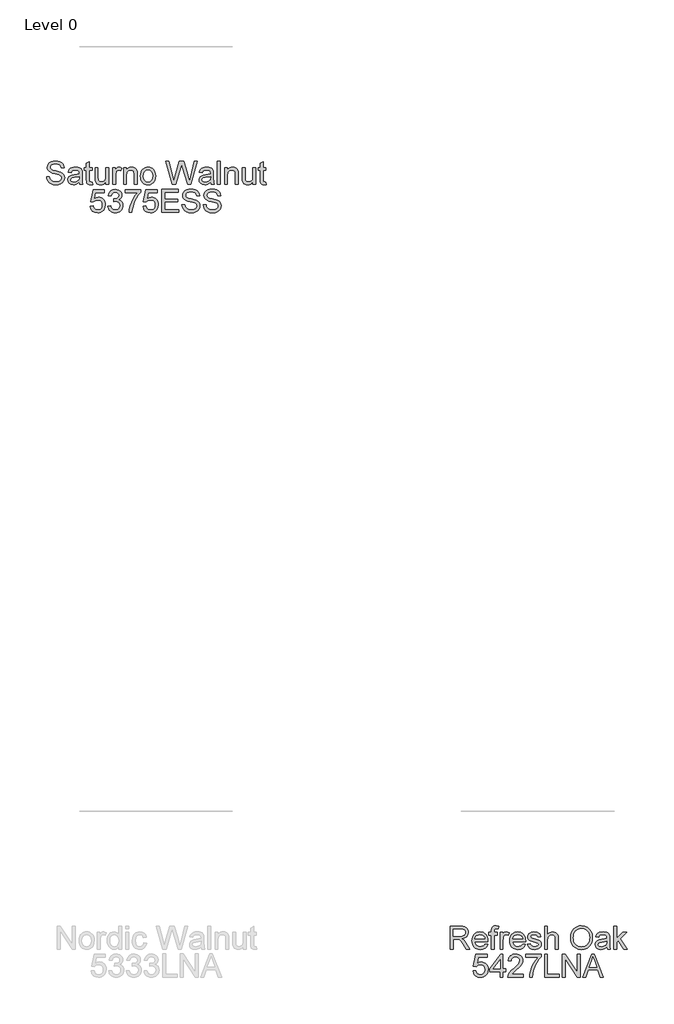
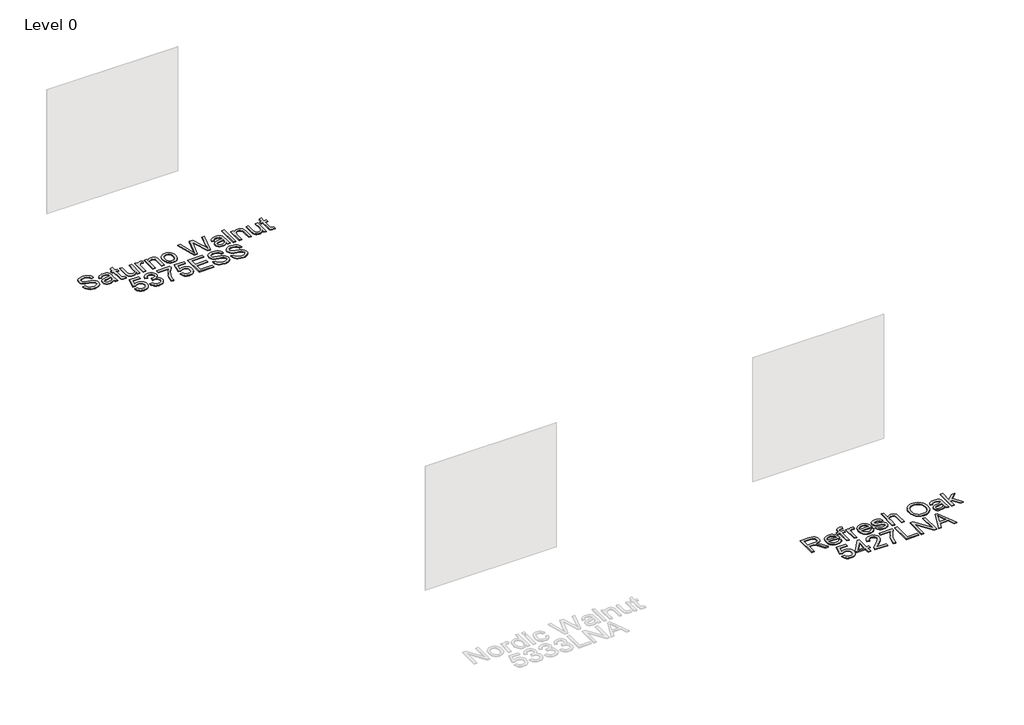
# One storey, part 39 of 43: 2 proxies.
"""IFC4 building model written with IfcOpenShell, lengths in millimetres."""

from ifc_helpers import new_model, si_unit, origin, origin_with_axes, place, context, project, spatial, polyline, outline, extrude, element, save

model = new_model("IFC4")

# Units and contexts
model_context = context("Model", 3, world=origin())
ifc_project = project(units=[si_unit("LENGTHUNIT", "METRE", prefix="MILLI")], contexts=[model_context])

# Site, building, storey
site = spatial("IfcSite", under=ifc_project)
building = spatial("IfcBuilding", under=site)
storey = spatial("IfcBuildingStorey", under=building, Name="Level 0", Elevation=0.0)

# Proxies
placement = place(None, origin())
element("IfcBuildingElementProxy", 1, Name="300mm Arial", ObjectType="300mm Arial", at=placement, inside=storey, context=model_context, shape_type="SweptSolid", body=[
    extrude(outline(polyline([(36405.0817859, -22017.4454346), (36405.0817859, -21716.0765041), (36534.9441302, -21716.0765041), (36569.8469345, -21718.1090521), (36595.2399892, -21724.2066962), (36613.7996359, -21735.4638852), (36628.202216, -21752.9750682), (36637.4452511, -21774.689303), (36640.5262628, -21798.5556474), (36635.4219001, -21828.2437244), (36620.1088121, -21852.8550299), (36608.5090329, -21862.8844128), (36594.1271462, -21870.8996418), (36557.0170499, -21880.8876379), (36578.427782, -21897.0008693), (36608.9619876, -21935.7756316), (36659.2146682, -22017.4454346), (36615.4367107, -22017.4454346), (36576.2204901, -21954.9790718), (36547.8935764, -21913.6291355), (36527.9911605, -21894.0946016), (36510.0753073, -21886.9209027), (36488.2231168, -21885.5965275), (36442.7529022, -21885.5965275), (36442.7529022, -22017.4454346), (36405.0817859, -22017.4454346)]), holes=[polyline([(36442.7529022, -21847.9254112), (36527.0714555, -21847.9254112), (36551.2872878, -21846.5918389), (36570.0768607, -21842.5911222), (36584.2219234, -21835.6565466), (36594.5042252, -21825.5213977), (36600.7674162, -21813.2617302), (36602.8551465, -21799.953599), (36598.8728239, -21781.5778933), (36586.9258561, -21766.770643), (36566.3704496, -21757.0033761), (36536.562811, -21753.7476204), (36442.7529022, -21753.7476204), (36442.7529022, -21847.9254112)])]), origin_with_axes(), (0.0, 0.0, 1.0), 10.0),
    extrude(outline(polyline([(36856.6937232, -21951.520981), (36893.6290755, -21956.2298706), (36880.3209443, -21984.0601435), (36859.0849561, -22004.8638703), (36830.3993576, -22017.8317106), (36794.7423952, -22022.1543241), (36771.3680929, -22020.2896222), (36750.5413735, -22014.6955166), (36732.2622368, -22005.3720073), (36716.530683, -21992.3190943), (36703.8801409, -21975.900061), (36694.8440394, -21956.4781909), (36689.4223785, -21934.053484), (36687.6151582, -21908.6259404), (36689.4407726, -21882.3361733), (36694.9176158, -21859.1642061), (36704.0456878, -21839.1100389), (36716.8249886, -21822.1736715), (36732.5151557, -21808.7183875), (36750.3758266, -21799.1074704), (36770.4070012, -21793.3409201), (36792.6086796, -21791.4187367), (36814.0952874, -21793.3363216), (36833.5263545, -21799.0890763), (36850.901881, -21808.6770008), (36866.2218668, -21822.1000951), (36878.7275554, -21838.9996743), (36887.6601901, -21859.0170533), (36893.0197709, -21882.1522323), (36894.8062979, -21908.4052112), (36894.5855687, -21918.5587542), (36725.2862745, -21918.5587542), (36731.8069829, -21946.7569092), (36746.954524, -21967.4870596), (36768.8159116, -21980.2341707), (36795.4781592, -21984.4832078), (36815.5277279, -21982.5150391), (36832.4135115, -21976.6105331), (36846.1355099, -21966.4018077), (36856.6937232, -21951.520981)]), holes=[polyline([(36725.2862745, -21880.8876379), (36857.1351816, -21880.8876379), (36852.0400159, -21860.985222), (36842.0520198, -21846.7481888), (36820.0894647, -21833.504437), (36792.4615268, -21829.089853), (36767.0684721, -21832.6123231), (36746.0716072, -21843.1797334), (36731.4758891, -21859.6516498), (36725.2862745, -21880.8876379)])]), origin_with_axes(), (0.0, 0.0, 1.0), 10.0),
    extrude(outline(polyline([(36941.8951933, -22017.4454346), (36941.8951933, -21833.7987426), (36908.9329665, -21833.7987426), (36908.9329665, -21796.1276263), (36941.8951933, -21796.1276263), (36941.8951933, -21773.8339773), (36945.8683188, -21742.416855), (36953.4466879, -21729.890473), (36965.1453354, -21719.9760533), (36981.5160841, -21713.5197242), (37003.1107573, -21711.3676146), (37037.4709356, -21715.4878929), (37031.9527057, -21750.8045644), (37010.247668, -21749.0387309), (36995.9278613, -21750.6022293), (36986.5192793, -21755.2927248), (36981.304552, -21764.2506514), (36979.5663096, -21778.6164433), (36979.5663096, -21796.1276263), (37021.9463154, -21796.1276263), (37021.9463154, -21833.7987426), (36979.5663096, -21833.7987426), (36979.5663096, -22017.4454346), (36941.8951933, -22017.4454346)])), origin_with_axes(), (0.0, 0.0, 1.0), 10.0),
    extrude(outline(polyline([(37054.9085422, -22017.4454346), (37054.9085422, -21796.1276263), (37087.8707689, -21796.1276263), (37087.8707689, -21828.8691238), (37100.047663, -21809.8864129), (37111.2680638, -21798.7028002), (37122.5252529, -21793.2397526), (37134.8125115, -21791.4187367), (37153.5744933, -21794.3250045), (37172.6307806, -21803.0438078), (37160.0492164, -21836.8153749), (37146.8054646, -21831.0212335), (37133.5617127, -21829.089853), (37122.3137207, -21830.9476571), (37112.2613452, -21836.5210693), (37104.1403502, -21845.3870254), (37098.6864996, -21857.1224611), (37094.1063688, -21878.1653112), (37092.5796585, -21901.1211477), (37092.5796585, -22017.4454346), (37054.9085422, -22017.4454346)])), origin_with_axes(), (0.0, 0.0, 1.0), 10.0),
    extrude(outline(polyline([(37351.1271247, -21951.520981), (37388.062477, -21956.2298706), (37374.7543458, -21984.0601435), (37353.5183577, -22004.8638703), (37324.8327591, -22017.8317106), (37289.1757967, -22022.1543241), (37265.8014944, -22020.2896222), (37244.974775, -22014.6955166), (37226.6956383, -22005.3720073), (37210.9640845, -21992.3190943), (37198.3135424, -21975.900061), (37189.2774409, -21956.4781909), (37183.85578, -21934.053484), (37182.0485597, -21908.6259404), (37183.8741741, -21882.3361733), (37189.3510173, -21859.1642061), (37198.4790893, -21839.1100389), (37211.2583901, -21822.1736715), (37226.9485572, -21808.7183875), (37244.8092281, -21799.1074704), (37264.8404027, -21793.3409201), (37287.0420811, -21791.4187367), (37308.5286889, -21793.3363216), (37327.959756, -21799.0890763), (37345.3352825, -21808.6770008), (37360.6552684, -21822.1000951), (37373.1609569, -21838.9996743), (37382.0935916, -21859.0170533), (37387.4531725, -21882.1522323), (37389.2396994, -21908.4052112), (37389.0189702, -21918.5587542), (37219.719676, -21918.5587542), (37226.2403844, -21946.7569092), (37241.3879255, -21967.4870596), (37263.2493131, -21980.2341707), (37289.9115607, -21984.4832078), (37309.9611294, -21982.5150391), (37326.846913, -21976.6105331), (37340.5689114, -21966.4018077), (37351.1271247, -21951.520981)]), holes=[polyline([(37219.719676, -21880.8876379), (37351.5685831, -21880.8876379), (37346.4734175, -21860.985222), (37336.4854213, -21846.7481888), (37314.5228662, -21833.504437), (37286.8949283, -21829.089853), (37261.5018736, -21832.6123231), (37240.5050087, -21843.1797334), (37225.9092906, -21859.6516498), (37219.719676, -21880.8876379)])]), origin_with_axes(), (0.0, 0.0, 1.0), 10.0),
    extrude(outline(polyline([(37412.7841471, -21951.520981), (37450.4552634, -21946.8120915), (37456.3965576, -21962.9253229), (37467.89287, -21974.7711231), (37485.0177768, -21982.0551866), (37507.8448546, -21984.4832078), (37530.3960209, -21982.2575217), (37546.2517349, -21975.5804635), (37555.6327258, -21965.905167), (37558.7597228, -21954.6847662), (37555.6143317, -21945.0830461), (37546.1781585, -21937.7621944), (37507.4033962, -21927.0200401), (37450.6759926, -21908.5891522), (37436.3193977, -21899.3277229), (37425.9175343, -21887.0680555), (37419.599161, -21872.591899), (37417.4930366, -21856.6810027), (37419.1852938, -21842.0852845), (37424.2620653, -21828.6116064), (37432.2634987, -21816.7933973), (37442.7297415, -21807.1640861), (37466.6788594, -21796.0172617), (37499.0892632, -21791.4187367), (37523.6085981, -21793.2673437), (37544.9273598, -21798.8131648), (37562.0706607, -21807.513574), (37574.0636138, -21818.8259454), (37582.0098649, -21833.5872104), (37587.01306, -21852.6343007), (37549.3419437, -21857.3431903), (37544.5870689, -21845.488193), (37535.1784869, -21836.5578575), (37521.0242271, -21830.9568541), (37502.0323191, -21829.089853), (37480.4008578, -21830.8740807), (37465.9798836, -21836.2267637), (37457.8680856, -21843.9522856), (37455.1641529, -21852.8550299), (37459.6523133, -21863.8179134), (37473.7054055, -21872.1320465), (37506.1525975, -21880.151874), (37561.4452613, -21897.8837861), (37576.0501765, -21906.3634661), (37587.1234246, -21917.9701431), (37594.1039855, -21932.7406052), (37596.4308391, -21950.7116406), (37593.6993153, -21969.2896814), (37585.5047438, -21986.7640762), (37572.1598244, -22001.7644645), (37553.9772568, -22012.920486), (37532.0147017, -22019.8458646), (37507.3298198, -22022.1543241), (37469.3460038, -22017.7029519), (37441.6260955, -22004.3488355), (37423.1216311, -21982.2391276), (37412.7841471, -21951.520981)])), origin_with_axes(), (0.0, 0.0, 1.0), 10.0),
    extrude(outline(polyline([(37638.8108449, -22017.4454346), (37638.8108449, -21716.0765041), (37676.4819612, -21716.0765041), (37676.4819612, -21826.882561), (37690.3189228, -21811.3671379), (37705.8573385, -21800.2846928), (37723.0972085, -21793.6352257), (37742.0385328, -21791.4187367), (37764.7920342, -21793.8375608), (37784.3449622, -21801.0940332), (37799.7408237, -21812.6179367), (37810.0231255, -21827.8390542), (37815.8172669, -21848.7531457), (37817.7486474, -21877.3559708), (37817.7486474, -22017.4454346), (37780.0775311, -22017.4454346), (37780.0775311, -21881.2555199), (37777.0792928, -21857.674284), (37768.084578, -21841.5242645), (37753.5900274, -21832.1984559), (37734.0922817, -21829.089853), (37718.1721883, -21831.1867804), (37703.2269823, -21837.4775625), (37690.8477531, -21847.3551941), (37682.6255905, -21860.2126698), (37678.0178686, -21877.3007885), (37676.4819612, -21899.8703489), (37676.4819612, -22017.4454346), (37638.8108449, -22017.4454346)])), origin_with_axes(), (0.0, 0.0, 1.0), 10.0),
    extrude(outline(polyline([(37977.8508917, -21870.7340949), (37980.3616863, -21835.3852337), (37987.8940701, -21804.0922714), (38000.4480432, -21776.8552082), (38018.0236055, -21753.674044), (38039.5676949, -21735.1649811), (38064.027249, -21721.9442219), (38091.402268, -21714.0117664), (38121.6927518, -21711.3676146), (38161.2216722, -21716.3340215), (38196.6671024, -21731.2332423), (38226.097662, -21755.0168133), (38247.5819705, -21786.6362708), (38260.7153578, -21824.5649045), (38265.0931535, -21867.2760041), (38260.4854315, -21910.5573209), (38246.6622656, -21949.0193834), (38224.3870107, -21980.6940232), (38194.4230222, -22003.6130715), (38159.2810946, -22017.519011), (38121.4720226, -22022.1543241), (38081.3360969, -22017.0315673), (38045.6883316, -22001.663297), (38016.3313484, -21977.4382676), (37995.067769, -21945.7452337), (37982.155111, -21909.2789309), (37977.8508917, -21870.7340949)]), holes=[polyline([(38015.522008, -21871.1019769), (38017.4051039, -21896.0765658), (38023.0543918, -21918.2460546), (38032.4698716, -21937.6104431), (38045.6515434, -21954.1697314), (38061.6751035, -21967.4318773), (38079.6162486, -21976.9048387), (38099.4749785, -21982.5886155), (38121.2512934, -21984.4832078), (38143.4000888, -21982.5702214), (38163.4933435, -21976.8312623), (38181.5310576, -21967.2663304), (38197.513231, -21953.8754258), (38210.5983337, -21936.9666496), (38219.9448357, -21916.848103), (38225.5527368, -21893.519786), (38227.4220372, -21866.9816985), (38224.2214638, -21833.6331957), (38214.6197438, -21804.8096413), (38198.8651973, -21781.2376025), (38177.2061449, -21763.6436461), (38151.0773262, -21752.6899597), (38121.913481, -21749.0387309), (38100.8936235, -21750.7976667), (38081.3912792, -21756.074474), (38063.4064482, -21764.869153), (38046.9391304, -21777.1817035), (38033.1941393, -21793.6053353), (38023.3762886, -21814.7332582), (38017.4855781, -21840.565472), (38015.522008, -21871.1019769)])]), origin_with_axes(), (0.0, 0.0, 1.0), 10.0),
    extrude(outline(polyline([(38453.448735, -21989.1920973), (38435.4501084, -22004.624747), (38416.9180529, -22014.7231078), (38397.4295042, -22020.29652), (38376.561398, -22022.1543241), (38345.0798963, -22017.6845578), (38321.8573454, -22004.2752591), (38307.5375387, -21983.9129907), (38302.7642698, -21958.5843153), (38304.5668916, -21942.9677246), (38309.9747569, -21928.7858737), (38318.3164812, -21916.6457679), (38328.9206797, -21907.1544124), (38355.2978187, -21894.7935774), (38387.8921635, -21889.1281946), (38426.4094084, -21883.1685063), (38453.2280058, -21876.1787484), (38453.448735, -21867.7910389), (38450.855167, -21850.9788317), (38443.0744628, -21839.9791601), (38425.6736444, -21831.8121798), (38401.4302209, -21829.089853), (38378.9894192, -21830.9016718), (38363.3176462, -21836.3371283), (38352.6306743, -21846.3895038), (38345.1442757, -21862.0520798), (38307.4731594, -21857.3431903), (38314.0122618, -21836.7417985), (38323.7703317, -21820.5549907), (38337.6578771, -21808.1757616), (38356.5854057, -21798.9971058), (38379.7343803, -21793.313329), (38406.2862633, -21791.4187367), (38431.7528944, -21793.0925998), (38451.9404189, -21798.114189), (38467.1615364, -21805.664967), (38477.7289467, -21814.9263962), (38484.7370987, -21826.3767233), (38489.2804414, -21840.4941949), (38491.1198513, -21873.4564216), (38491.1198513, -21920.3245878), (38493.0328377, -21985.7707948), (38500.5376304, -22017.4454346), (38462.8665141, -22017.4454346), (38453.448735, -21989.1920973)]), holes=[polyline([(38453.448735, -21913.8498647), (38392.6746294, -21925.4013594), (38360.2642257, -21931.5082005), (38345.5857341, -21941.4410143), (38340.4353861, -21955.935565), (38343.2404863, -21967.1375717), (38351.655787, -21976.3162275), (38365.497347, -21982.4414627), (38384.5812255, -21984.4832078), (38404.8147353, -21982.2299306), (38422.6938002, -21975.4700989), (38437.1883509, -21965.5096939), (38447.2683175, -21953.6546966), (38451.7380838, -21941.4410143), (38453.2280058, -21924.5184426), (38453.448735, -21913.8498647)])]), origin_with_axes(), (0.0, 0.0, 1.0), 10.0),
    extrude(outline(polyline([(38542.9176363, -22017.4454346), (38542.9176363, -21716.0765041), (38580.5887526, -21716.0765041), (38580.5887526, -21878.0181584), (38665.0544587, -21796.1276263), (38717.1465492, -21796.1276263), (38631.6507735, -21879.048228), (38721.8554387, -22017.4454346), (38677.8567521, -22017.4454346), (38604.6482351, -21905.241426), (38580.5887526, -21928.5651445), (38580.5887526, -22017.4454346), (38542.9176363, -22017.4454346)])), origin_with_axes(), (0.0, 0.0, 1.0), 10.0),
    extrude(outline(polyline([(36701.7418268, -22303.3187659), (36739.4129431, -22298.6098764), (36746.3291246, -22321.2254221), (36758.3956541, -22337.4214269), (36775.5573491, -22347.1611027), (36797.7590275, -22350.4076613), (36824.761566, -22345.8919098), (36844.9950757, -22332.3446554), (36857.6318223, -22311.3293964), (36861.8440711, -22284.4096314), (36857.8985367, -22259.0625619), (36846.0619335, -22239.6751808), (36826.242291, -22227.369528), (36798.3476387, -22223.2676438), (36780.0731006, -22224.9047187), (36765.2750474, -22229.8159433), (36744.1218326, -22246.8120915), (36706.4507163, -22242.1032019), (36739.4129431, -22086.7098472), (36885.3885188, -22086.7098472), (36885.3885188, -22124.3809635), (36769.8735723, -22124.3809635), (36753.7603409, -22207.3751416), (36780.6709089, -22191.041181), (36808.8690638, -22185.5965275), (36827.214879, -22187.2841861), (36844.0661737, -22192.3471621), (36859.4229477, -22200.7854554), (36873.2852012, -22212.5990659), (36884.7608201, -22227.0660254), (36892.9576908, -22243.4643653), (36897.8758133, -22261.7940857), (36899.5151874, -22282.0551866), (36893.6106814, -22319.7263029), (36886.2300489, -22336.520116), (36875.8971633, -22351.9527657), (36860.2437844, -22367.7578959), (36841.9784434, -22379.0472746), (36821.1011401, -22385.8209019), (36797.6118747, -22388.0787776), (36760.6121431, -22382.2754392), (36744.9334723, -22375.0212661), (36731.1355982, -22364.8654237), (36719.6553807, -22352.3137499), (36710.9296796, -22337.8720823), (36701.7418268, -22303.3187659)])), origin_with_axes(), (0.0, 0.0, 1.0), 10.0),
    extrude(outline(polyline([(37054.9085422, -22383.3698881), (37054.9085422, -22312.736545), (36918.3507456, -22312.736545), (36918.3507456, -22275.0654287), (37064.3263213, -22086.7098472), (37092.5796585, -22086.7098472), (37092.5796585, -22275.0654287), (37130.2507748, -22275.0654287), (37130.2507748, -22312.736545), (37092.5796585, -22312.736545), (37092.5796585, -22383.3698881), (37054.9085422, -22383.3698881)]), holes=[polyline([(37054.9085422, -22275.0654287), (37054.9085422, -22158.6675654), (36964.703877, -22275.0654287), (37054.9085422, -22275.0654287)])]), origin_with_axes(), (0.0, 0.0, 1.0), 10.0),
    extrude(outline(polyline([(37356.2774726, -22345.6987718), (37356.2774726, -22383.3698881), (37158.504112, -22383.3698881), (37162.550814, -22357.3974192), (37171.8398343, -22337.0995301), (37185.4330741, -22317.4086464), (37205.0963667, -22296.7980576), (37232.5955458, -22273.7410535), (37273.2465063, -22237.6334357), (37297.6370826, -22210.9803851), (37309.8323707, -22189.3489238), (37313.8974668, -22168.3060737), (37310.062297, -22149.4429244), (37298.5567876, -22133.7619544), (37280.8708607, -22123.194544), (37258.4944383, -22119.6720739), (37234.9959759, -22123.1117706), (37216.7398319, -22133.4308606), (37204.958411, -22149.8200034), (37200.8841179, -22171.4698589), (37163.2130016, -22166.7609693), (37172.3456721, -22130.3222577), (37180.8920307, -22115.7863204), (37192.0917382, -22103.7059954), (37205.6872772, -22094.2100414), (37221.4211302, -22087.4272171), (37259.3037787, -22082.0009576), (37279.4936024, -22083.5092738), (37297.4623386, -22088.0342224), (37313.2099873, -22095.5758033), (37326.7365484, -22106.1340165), (37337.6005636, -22118.9271129), (37345.3605744, -22133.1733432), (37350.0165809, -22148.8727073), (37351.5685831, -22166.0252053), (37349.89472, -22184.0422261), (37344.8731308, -22201.7465471), (37335.9611894, -22219.7543707), (37322.6162701, -22238.6818994), (37301.3434937, -22261.2790509), (37268.6479814, -22290.2957433), (37225.3114823, -22326.5321198), (37208.3153342, -22345.6987718), (37356.2774726, -22345.6987718)])), origin_with_axes(), (0.0, 0.0, 1.0), 10.0),
    extrude(outline(polyline([(37393.9485889, -22124.3809635), (37393.9485889, -22086.7098472), (37591.7219495, -22086.7098472), (37591.7219495, -22117.1704764), (37563.5329917, -22152.8458329), (37535.6199453, -22198.2148799), (37510.9994427, -22249.1389451), (37492.6881164, -22301.479356), (37483.7117958, -22340.6403943), (37478.7086006, -22383.3698881), (37441.0374843, -22383.3698881), (37445.1117774, -22344.5399435), (37456.0102815, -22298.3891472), (37473.438691, -22249.4700389), (37497.1027004, -22202.3351583), (37524.7306382, -22159.7252262), (37554.0508332, -22124.3809635), (37393.9485889, -22124.3809635)])), origin_with_axes(), (0.0, 0.0, 1.0), 10.0),
    extrude(outline(polyline([(37638.8108449, -22383.3698881), (37638.8108449, -22082.0009576), (37676.4819612, -22082.0009576), (37676.4819612, -22345.6987718), (37827.1664265, -22345.6987718), (37827.1664265, -22383.3698881), (37638.8108449, -22383.3698881)])), origin_with_axes(), (0.0, 0.0, 1.0), 10.0),
    extrude(outline(polyline([(37869.5464323, -22383.3698881), (37869.5464323, -22082.0009576), (37909.866299, -22082.0009576), (38067.3197929, -22320.7563725), (38067.3197929, -22082.0009576), (38104.9909092, -22082.0009576), (38104.9909092, -22383.3698881), (38064.6710425, -22383.3698881), (37907.2175486, -22144.5408968), (37907.2175486, -22383.3698881), (37869.5464323, -22383.3698881)])), origin_with_axes(), (0.0, 0.0, 1.0), 10.0),
    extrude(outline(polyline([(38135.8194204, -22383.3698881), (38256.1168328, -22082.0009576), (38288.1961428, -22082.0009576), (38408.4935552, -22383.3698881), (38368.6887234, -22383.3698881), (38334.1813922, -22289.1920973), (38210.058007, -22289.1920973), (38175.6242523, -22383.3698881), (38135.8194204, -22383.3698881)]), holes=[polyline([(38223.89037, -22251.520981), (38320.4226056, -22251.520981), (38293.2729143, -22177.4295472), (38272.1564878, -22119.6720739), (38253.3945061, -22170.9548241), (38223.89037, -22251.520981)])]), origin_with_axes(), (0.0, 0.0, 1.0), 10.0),
])
element("IfcBuildingElementProxy", 2, Name="300mm Arial", ObjectType="300mm Arial", at=placement, inside=storey, context=model_context, shape_type="SweptSolid", body=[
    extrude(outline(polyline([(31117.8395241, -11902.2649241), (31155.5106404, -11902.2649241), (31159.8332538, -11923.1698185), (31167.6507462, -11939.9728286), (31179.8460343, -11953.308551), (31197.302035, -11963.8115819), (31218.6391907, -11970.6265959), (31242.477944, -11972.8982672), (31263.4656119, -11971.1784189), (31281.8413175, -11966.0188739), (31296.7313413, -11957.8518936), (31307.2619634, -11947.1097394), (31313.5251543, -11934.7764955), (31315.6128847, -11921.8362463), (31314.0493862, -11909.2270909), (31309.3588907, -11898.3285868), (31299.8307471, -11889.0303694), (31283.7543039, -11881.222074), (31228.9030984, -11866.837888), (31192.8966481, -11857.3189414), (31169.8580382, -11848.2598472), (31151.1052535, -11835.5863125), (31137.8155164, -11820.2272392), (31129.8968565, -11802.5137211), (31127.2573031, -11782.7768521), (31130.5222558, -11760.7131294), (31140.317114, -11740.1393289), (31156.3843601, -11722.7017223), (31178.4664769, -11710.0465817), (31204.9723746, -11702.3486509), (31234.3109637, -11699.782674), (31266.0959681, -11702.4682126), (31293.907847, -11710.5248283), (31316.7533189, -11723.7869742), (31333.6391024, -11742.0891034), (31344.3260744, -11764.2907818), (31348.5751114, -11789.2515752), (31310.9039951, -11789.2515752), (31303.9878136, -11766.7739853), (31289.5668394, -11750.5503893), (31267.0340672, -11740.7279401), (31235.7824917, -11737.4537903), (31203.7951522, -11740.6911519), (31181.8509912, -11750.4032365), (31169.1590624, -11764.695452), (31164.9284194, -11781.6732061), (31167.9266577, -11796.1493626), (31176.9213725, -11807.7928278), (31198.1849518, -11818.2038882), (31238.4312421, -11828.8356779), (31279.9651193, -11838.9340387), (31305.0914596, -11847.7448125), (31326.5665711, -11861.4116286), (31341.5485653, -11878.2790181), (31350.3501421, -11898.1630399), (31353.284001, -11920.8797531), (31349.9086837, -11944.102304), (31339.7827318, -11965.9452975), (31323.3200125, -11984.7440675), (31300.9343931, -11998.8339479), (31274.0146281, -12007.6355246), (31243.949472, -12010.5693835), (31207.0417108, -12007.4055984), (31176.6638551, -11997.9142429), (31152.4664169, -11982.0585289), (31134.0999082, -11959.8016682), (31122.3092903, -11932.6887651), (31117.8395241, -11902.2649241)])), origin_with_axes(), (0.0, 0.0, 1.0), 10.0),
    extrude(outline(polyline([(31546.348472, -11977.6071568), (31528.3498454, -11993.0398064), (31509.8177899, -12003.1381672), (31490.3292412, -12008.7115794), (31469.4611351, -12010.5693835), (31437.9796333, -12006.0996173), (31414.7570824, -11992.6903186), (31400.4372757, -11972.3280501), (31395.6640068, -11946.9993748), (31397.4666286, -11931.3827841), (31402.8744939, -11917.2009331), (31411.2162182, -11905.0608273), (31421.8204167, -11895.5694718), (31448.1975557, -11883.2086368), (31480.7919005, -11877.5432541), (31519.3091454, -11871.5835657), (31546.1277428, -11864.5938078), (31546.348472, -11856.2060983), (31543.754904, -11839.3938912), (31535.9741998, -11828.3942195), (31518.5733814, -11820.2272392), (31494.3299579, -11817.5049125), (31471.8891562, -11819.3167313), (31456.2173832, -11824.7521878), (31445.5304113, -11834.8045633), (31438.0440127, -11850.4671392), (31400.3728964, -11845.7582497), (31406.9119988, -11825.156858), (31416.6700687, -11808.9700502), (31430.5576141, -11796.590821), (31449.4851427, -11787.4121652), (31472.6341173, -11781.7283884), (31499.1860003, -11779.8337961), (31524.6526314, -11781.5076592), (31544.8401559, -11786.5292485), (31560.0612734, -11794.0800264), (31570.6286837, -11803.3414556), (31577.6368357, -11814.7917827), (31582.1801784, -11828.9092543), (31584.0195883, -11861.8714811), (31584.0195883, -11908.7396473), (31585.9325747, -11974.1858542), (31593.4373674, -12005.860494), (31555.7662511, -12005.860494), (31546.348472, -11977.6071568)]), holes=[polyline([(31546.348472, -11902.2649241), (31485.5743664, -11913.8164188), (31453.1639627, -11919.9232599), (31438.4854711, -11929.8560738), (31433.3351231, -11944.3506244), (31436.1402233, -11955.5526311), (31444.555524, -11964.7312869), (31458.397084, -11970.8565221), (31477.4809625, -11972.8982672), (31497.7144723, -11970.64499), (31515.5935372, -11963.8851583), (31530.0880879, -11953.9247533), (31540.1680545, -11942.069756), (31544.6378208, -11929.8560738), (31546.1277428, -11912.933502), (31546.348472, -11902.2649241)])]), origin_with_axes(), (0.0, 0.0, 1.0), 10.0),
    extrude(outline(polyline([(31715.8684954, -11974.4433716), (31720.577385, -12006.96414), (31692.3976241, -12010.5693835), (31674.3162241, -12009.005885), (31660.8333489, -12004.3153896), (31651.3052053, -11997.0865084), (31645.0879995, -11987.9078526), (31641.666697, -11972.1441091), (31640.5262628, -11945.1599648), (31640.5262628, -11822.213802), (31612.2729256, -11822.213802), (31612.2729256, -11784.5426857), (31640.5262628, -11784.5426857), (31640.5262628, -11730.758338), (31678.1973791, -11708.6118419), (31678.1973791, -11784.5426857), (31715.8684954, -11784.5426857), (31715.8684954, -11822.213802), (31678.1973791, -11822.213802), (31678.1973791, -11944.0563188), (31680.1839419, -11963.4804881), (31686.6218768, -11970.3598814), (31699.4609584, -11972.8982672), (31715.8684954, -11974.4433716)])), origin_with_axes(), (0.0, 0.0, 1.0), 10.0),
    extrude(outline(polyline([(31894.8062979, -12005.860494), (31894.8062979, -11967.8214957), (31881.17627, -11986.5236966), (31865.3021619, -11999.8824116), (31847.1839736, -12007.8976405), (31826.8217052, -12010.5693835), (31808.4735907, -12008.6931853), (31791.394669, -12003.0645908), (31777.0656653, -11994.6033049), (31766.9673045, -11984.2290327), (31755.7469037, -11956.4907302), (31753.5396117, -11921.4683643), (31753.5396117, -11784.5426857), (31791.210728, -11784.5426857), (31791.210728, -11903.7364521), (31793.4915964, -11942.1433324), (31798.9822352, -11954.9548229), (31808.3908172, -11964.6944987), (31821.0919431, -11970.8473251), (31836.4602134, -11972.8982672), (31852.7114006, -11970.8013398), (31867.914124, -11964.5105577), (31880.449703, -11954.605335), (31888.6994568, -11941.6650858), (31893.2795876, -11923.9423707), (31894.8062979, -11899.6897502), (31894.8062979, -11784.5426857), (31932.4774142, -11784.5426857), (31932.4774142, -12005.860494), (31894.8062979, -12005.860494)])), origin_with_axes(), (0.0, 0.0, 1.0), 10.0),
    extrude(outline(polyline([(31984.2751991, -12005.860494), (31984.2751991, -11784.5426857), (32017.2374259, -11784.5426857), (32017.2374259, -11817.2841833), (32029.4143199, -11798.3014723), (32040.6347208, -11787.1178596), (32051.8919098, -11781.654812), (32064.1791685, -11779.8337961), (32082.9411502, -11782.7400639), (32101.9974376, -11791.4588672), (32089.4158733, -11825.2304343), (32076.1721215, -11819.4362929), (32062.9283697, -11817.5049125), (32051.6803777, -11819.3627165), (32041.6280021, -11824.9361288), (32033.5070071, -11833.8020848), (32028.0531565, -11845.5375205), (32023.4730257, -11866.5803706), (32021.9463154, -11889.5362071), (32021.9463154, -12005.860494), (31984.2751991, -12005.860494)])), origin_with_axes(), (0.0, 0.0, 1.0), 10.0),
    extrude(outline(polyline([(32125.5418852, -12005.860494), (32125.5418852, -11784.5426857), (32163.2130016, -11784.5426857), (32163.2130016, -11815.4447733), (32176.3004035, -11799.8649708), (32192.0181618, -11788.7365404), (32210.3662763, -11782.0594822), (32231.3447471, -11779.8337961), (32249.9135908, -11781.6272209), (32266.918936, -11787.0074951), (32281.1007869, -11795.303234), (32291.1991477, -11805.8430532), (32302.4931249, -11833.5445674), (32304.4796877, -11869.964885), (32304.4796877, -12005.860494), (32266.8085714, -12005.860494), (32266.8085714, -11875.0416565), (32262.4675639, -11841.7115477), (32256.4618903, -11831.7879309), (32247.1268847, -11824.0900002), (32235.1615228, -11819.1511844), (32221.2647804, -11817.5049125), (32199.2010577, -11821.2021265), (32180.3930907, -11832.2937687), (32172.8768017, -11841.3482643), (32167.5080238, -11853.7228949), (32163.2130016, -11888.4325611), (32163.2130016, -12005.860494), (32125.5418852, -12005.860494)])), origin_with_axes(), (0.0, 0.0, 1.0), 10.0),
    extrude(outline(polyline([(32346.8596935, -11895.2015898), (32348.8968401, -11866.5389839), (32355.0082797, -11841.8403064), (32365.1940125, -11821.1055575), (32379.4540383, -11804.334737), (32393.8106332, -11793.6155754), (32409.6571501, -11785.9590314), (32426.9935891, -11781.3651049), (32445.8199502, -11779.8337961), (32466.6029837, -11781.698498), (32485.3948559, -11787.2926036), (32502.1955667, -11796.6161129), (32517.0051163, -11809.669026), (32529.0923391, -11826.0098843), (32537.7260697, -11845.1972296), (32542.906308, -11867.2310619), (32544.6330542, -11892.1113811), (32541.5796336, -11930.1687735), (32532.4193719, -11959.1394806), (32517.4189836, -11980.8353213), (32496.845183, -11997.0681143), (32472.4086215, -12007.1940662), (32445.8199502, -12010.5693835), (32424.7334141, -12008.7115794), (32405.766798, -12003.1381672), (32388.9201019, -11993.8491468), (32374.1933258, -11980.8445183), (32362.2348617, -11964.3450108), (32353.6931016, -11944.5713536), (32348.5680456, -11921.5235466), (32346.8596935, -11895.2015898)]), holes=[polyline([(32384.5308099, -11895.1280134), (32388.8902115, -11929.2214773), (32401.9684164, -11953.5108861), (32421.6501032, -11968.0514219), (32445.8199502, -11972.8982672), (32469.8794327, -11968.0238308), (32489.5243313, -11953.4005215), (32502.6025362, -11928.789216), (32506.9619378, -11893.950791), (32502.5749451, -11860.8506085), (32489.4139667, -11836.8922936), (32469.741477, -11822.3517577), (32445.8199502, -11817.5049125), (32421.6501032, -11822.3333636), (32401.9684164, -11836.8187172), (32388.8902115, -11861.0529436), (32384.5308099, -11895.1280134)])]), origin_with_axes(), (0.0, 0.0, 1.0), 10.0),
    extrude(outline(polyline([(32763.3756885, -12005.860494), (32681.1908508, -11704.4915635), (32720.0391895, -11704.4915635), (32767.716696, -11902.5592297), (32782.4319758, -11963.7012173), (32798.1773252, -11909.622564), (32857.9213612, -11704.4915635), (32913.9130009, -11704.4915635), (32957.3230763, -11853.189466), (32975.9195112, -11908.3717653), (32989.6231155, -11963.7012173), (33003.8969369, -11904.3250633), (33052.0159019, -11704.4915635), (33090.8642406, -11704.4915635), (33008.6058265, -12005.860494), (32968.3595362, -12005.860494), (32896.1075123, -11773.359073), (32886.0275457, -11740.9118811), (32874.6967802, -11779.9809489), (32808.8459031, -12005.860494), (32763.3756885, -12005.860494)])), origin_with_axes(), (0.0, 0.0, 1.0), 10.0),
    extrude(outline(polyline([(33265.0931535, -11977.6071568), (33247.0945269, -11993.0398064), (33228.5624714, -12003.1381672), (33209.0739227, -12008.7115794), (33188.2058165, -12010.5693835), (33156.7243148, -12006.0996173), (33133.5017638, -11992.6903186), (33119.1819572, -11972.3280501), (33114.4086883, -11946.9993748), (33116.2113101, -11931.3827841), (33121.6191754, -11917.2009331), (33129.9608996, -11905.0608273), (33140.5650981, -11895.5694718), (33166.9422372, -11883.2086368), (33199.536582, -11877.5432541), (33238.0538269, -11871.5835657), (33264.8724243, -11864.5938078), (33265.0931535, -11856.2060983), (33262.4995854, -11839.3938912), (33254.7188812, -11828.3942195), (33237.3180629, -11820.2272392), (33213.0746394, -11817.5049125), (33190.6338377, -11819.3167313), (33174.9620647, -11824.7521878), (33164.2750927, -11834.8045633), (33156.7886941, -11850.4671392), (33119.1175778, -11845.7582497), (33125.6566803, -11825.156858), (33135.4147502, -11808.9700502), (33149.3022955, -11796.590821), (33168.2298242, -11787.4121652), (33191.3787987, -11781.7283884), (33217.9306817, -11779.8337961), (33243.3973128, -11781.5076592), (33263.5848373, -11786.5292485), (33278.8059549, -11794.0800264), (33289.3733652, -11803.3414556), (33296.3815172, -11814.7917827), (33300.9248598, -11828.9092543), (33302.7642698, -11861.8714811), (33302.7642698, -11908.7396473), (33304.6772562, -11974.1858542), (33312.1820489, -12005.860494), (33274.5109326, -12005.860494), (33265.0931535, -11977.6071568)]), holes=[polyline([(33265.0931535, -11902.2649241), (33204.3190479, -11913.8164188), (33171.9086441, -11919.9232599), (33157.2301525, -11929.8560738), (33152.0798046, -11944.3506244), (33154.8849048, -11955.5526311), (33163.3002054, -11964.7312869), (33177.1417655, -11970.8565221), (33196.225644, -11972.8982672), (33216.4591537, -11970.64499), (33234.3382187, -11963.8851583), (33248.8327693, -11953.9247533), (33258.912736, -11942.069756), (33263.3825022, -11929.8560738), (33264.8724243, -11912.933502), (33265.0931535, -11902.2649241)])]), origin_with_axes(), (0.0, 0.0, 1.0), 10.0),
    extrude(outline(polyline([(33354.5620547, -12005.860494), (33354.5620547, -11704.4915635), (33392.233171, -11704.4915635), (33392.233171, -12005.860494), (33354.5620547, -12005.860494)])), origin_with_axes(), (0.0, 0.0, 1.0), 10.0),
    extrude(outline(polyline([(33448.7398455, -12005.860494), (33448.7398455, -11784.5426857), (33486.4109618, -11784.5426857), (33486.4109618, -11815.4447733), (33499.4983638, -11799.8649708), (33515.216122, -11788.7365404), (33533.5642365, -11782.0594822), (33554.5427073, -11779.8337961), (33573.111551, -11781.6272209), (33590.1168962, -11787.0074951), (33604.2987472, -11795.303234), (33614.3971079, -11805.8430532), (33625.6910852, -11833.5445674), (33627.677648, -11869.964885), (33627.677648, -12005.860494), (33590.0065316, -12005.860494), (33590.0065316, -11875.0416565), (33585.6655241, -11841.7115477), (33579.6598505, -11831.7879309), (33570.3248449, -11824.0900002), (33558.359483, -11819.1511844), (33544.4627406, -11817.5049125), (33522.399018, -11821.2021265), (33503.591051, -11832.2937687), (33496.074762, -11841.3482643), (33490.7059841, -11853.7228949), (33486.4109618, -11888.4325611), (33486.4109618, -12005.860494), (33448.7398455, -12005.860494)])), origin_with_axes(), (0.0, 0.0, 1.0), 10.0),
    extrude(outline(polyline([(33820.742119, -12005.860494), (33820.742119, -11967.8214957), (33807.1120911, -11986.5236966), (33791.237983, -11999.8824116), (33773.1197947, -12007.8976405), (33752.7575263, -12010.5693835), (33734.4094118, -12008.6931853), (33717.3304902, -12003.0645908), (33703.0014865, -11994.6033049), (33692.9031257, -11984.2290327), (33681.6827248, -11956.4907302), (33679.4754329, -11921.4683643), (33679.4754329, -11784.5426857), (33717.1465492, -11784.5426857), (33717.1465492, -11903.7364521), (33719.4274176, -11942.1433324), (33724.9180563, -11954.9548229), (33734.3266384, -11964.6944987), (33747.0277642, -11970.8473251), (33762.3960346, -11972.8982672), (33778.6472217, -11970.8013398), (33793.8499452, -11964.5105577), (33806.3855242, -11954.605335), (33814.6352779, -11941.6650858), (33819.2154087, -11923.9423707), (33820.742119, -11899.6897502), (33820.742119, -11784.5426857), (33858.4132353, -11784.5426857), (33858.4132353, -12005.860494), (33820.742119, -12005.860494)])), origin_with_axes(), (0.0, 0.0, 1.0), 10.0),
    extrude(outline(polyline([(33990.2621424, -11974.4433716), (33994.9710319, -12006.96414), (33966.7912711, -12010.5693835), (33948.709871, -12009.005885), (33935.2269959, -12004.3153896), (33925.6988522, -11997.0865084), (33919.4816465, -11987.9078526), (33916.060344, -11972.1441091), (33914.9199098, -11945.1599648), (33914.9199098, -11822.213802), (33886.6665726, -11822.213802), (33886.6665726, -11784.5426857), (33914.9199098, -11784.5426857), (33914.9199098, -11730.758338), (33952.5910261, -11708.6118419), (33952.5910261, -11784.5426857), (33990.2621424, -11784.5426857), (33990.2621424, -11822.213802), (33952.5910261, -11822.213802), (33952.5910261, -11944.0563188), (33954.5775889, -11963.4804881), (33961.0155238, -11970.3598814), (33973.8546054, -11972.8982672), (33990.2621424, -11974.4433716)])), origin_with_axes(), (0.0, 0.0, 1.0), 10.0),
    extrude(outline(polyline([(31689.969603, -12291.7338254), (31727.6407193, -12287.0249358), (31734.5569008, -12309.6404815), (31746.6234302, -12325.8364863), (31763.7851253, -12335.5761621), (31785.9868037, -12338.8227207), (31812.9893421, -12334.3069693), (31833.2228519, -12320.7597148), (31845.8595984, -12299.7444558), (31850.0718473, -12272.8246908), (31846.1263129, -12247.4776213), (31834.2897097, -12228.0902402), (31814.4700672, -12215.7845875), (31786.5754149, -12211.6827032), (31768.3008768, -12213.3197781), (31753.5028235, -12218.2310027), (31732.3496088, -12235.2271509), (31694.6784925, -12230.5182614), (31727.6407193, -12075.1249066), (31873.616295, -12075.1249066), (31873.616295, -12112.7960229), (31758.1013485, -12112.7960229), (31741.9881171, -12195.790201), (31768.898685, -12179.4562404), (31797.09684, -12174.0115869), (31815.4426552, -12175.6992456), (31832.2939498, -12180.7622215), (31847.6507239, -12189.2005148), (31861.5129773, -12201.0141254), (31872.9885963, -12215.4810848), (31881.185467, -12231.8794248), (31886.1035894, -12250.2091452), (31887.7429636, -12270.470246), (31881.8384575, -12308.1413624), (31874.457825, -12324.9351754), (31864.1249395, -12340.3678251), (31848.4715606, -12356.1729553), (31830.2062195, -12367.4623341), (31809.3289163, -12374.2359613), (31785.8396509, -12376.4938371), (31748.8399192, -12370.6904986), (31733.1612485, -12363.4363255), (31719.3633744, -12353.2804832), (31707.8831569, -12340.7288093), (31699.1574558, -12326.2871418), (31689.969603, -12291.7338254)])), origin_with_axes(), (0.0, 0.0, 1.0), 10.0),
    extrude(outline(polyline([(31920.7051903, -12291.7338254), (31958.3763066, -12287.0249358), (31966.8100014, -12310.6981422), (31979.1616394, -12326.6826149), (31996.0382259, -12335.7876943), (32018.0467663, -12338.8227207), (32043.8720823, -12334.6472601), (32063.8112865, -12322.1208782), (32076.5583976, -12303.4324728), (32080.8074346, -12280.7709419), (32076.5951858, -12259.2590422), (32063.9584393, -12241.8122386), (32044.8285755, -12230.2515469), (32021.136975, -12226.397983), (31994.7230478, -12230.5182614), (31998.9169025, -12192.8471451), (32004.9501672, -12193.2886035), (32027.5197276, -12190.5846708), (32047.6980551, -12182.4728728), (32061.9350883, -12168.7508744), (32066.680766, -12149.2163404), (32063.2410694, -12132.9467592), (32052.9219794, -12119.7489926), (32037.17663, -12111.0025982), (32017.4581551, -12108.0871334), (31997.7028919, -12111.0301893), (31981.5528723, -12119.8593572), (31969.7622544, -12134.574637), (31963.0851962, -12155.1760288), (31925.4140799, -12150.4671392), (31936.505722, -12116.6403898), (31956.2425911, -12091.3852908), (31983.2451295, -12075.6583355), (32016.1337799, -12070.4160171), (32039.8161833, -12073.0003881), (32061.5672063, -12080.7535011), (32079.9061237, -12092.9855775), (32093.3522107, -12109.0068384), (32101.6019644, -12127.4653175), (32104.3518823, -12147.0090485), (32101.7399202, -12165.2192072), (32093.9040337, -12181.7371088), (32080.9545874, -12195.8085951), (32063.0019461, -12206.6795081), (32086.583182, -12216.2076518), (32104.0575767, -12232.4312477), (32114.8733074, -12254.4673793), (32118.4785509, -12281.4331295), (32116.6759292, -12300.5445992), (32111.2680638, -12318.1477526), (32102.254955, -12334.2425899), (32089.6366025, -12348.829111), (32074.2637336, -12360.9324287), (32056.9870754, -12369.5776555), (32037.8066279, -12374.7647917), (32016.7223911, -12376.4938371), (31997.6661037, -12375.0177105), (31980.3020736, -12370.589331), (31964.6303006, -12363.2086985), (31950.6507847, -12352.875813), (31938.9291447, -12340.1976797), (31930.0309989, -12325.781304), (31923.9563475, -12309.6266859), (31920.7051903, -12291.7338254)])), origin_with_axes(), (0.0, 0.0, 1.0), 10.0),
    extrude(outline(polyline([(32151.4407777, -12112.7960229), (32151.4407777, -12075.1249066), (32349.2141383, -12075.1249066), (32349.2141383, -12105.5855358), (32321.0251804, -12141.2608923), (32293.1121341, -12186.6299393), (32268.4916315, -12237.5540045), (32250.1803052, -12289.8944154), (32241.2039845, -12329.0554538), (32236.2007894, -12371.7849475), (32198.5296731, -12371.7849475), (32202.6039662, -12332.9550029), (32213.5024703, -12286.8042066), (32230.9308798, -12237.8850983), (32254.5948892, -12190.7502177), (32282.222827, -12148.1402856), (32311.543022, -12112.7960229), (32151.4407777, -12112.7960229)])), origin_with_axes(), (0.0, 0.0, 1.0), 10.0),
    extrude(outline(polyline([(32382.1763651, -12291.7338254), (32419.8474814, -12287.0249358), (32426.7636629, -12309.6404815), (32438.8301923, -12325.8364863), (32455.9918874, -12335.5761621), (32478.1935658, -12338.8227207), (32505.1961043, -12334.3069693), (32525.429614, -12320.7597148), (32538.0663605, -12299.7444558), (32542.2786094, -12272.8246908), (32538.333075, -12247.4776213), (32526.4964718, -12228.0902402), (32506.6768293, -12215.7845875), (32478.782177, -12211.6827032), (32460.5076389, -12213.3197781), (32445.7095857, -12218.2310027), (32424.5563709, -12235.2271509), (32386.8852546, -12230.5182614), (32419.8474814, -12075.1249066), (32565.8230571, -12075.1249066), (32565.8230571, -12112.7960229), (32450.3081106, -12112.7960229), (32434.1948792, -12195.790201), (32461.1054471, -12179.4562404), (32489.3036021, -12174.0115869), (32507.6494173, -12175.6992456), (32524.500712, -12180.7622215), (32539.857486, -12189.2005148), (32553.7197394, -12201.0141254), (32565.1953584, -12215.4810848), (32573.3922291, -12231.8794248), (32578.3103516, -12250.2091452), (32579.9497257, -12270.470246), (32574.0452197, -12308.1413624), (32566.6645871, -12324.9351754), (32556.3317016, -12340.3678251), (32540.6783227, -12356.1729553), (32522.4129816, -12367.4623341), (32501.5356784, -12374.2359613), (32478.046413, -12376.4938371), (32441.0466814, -12370.6904986), (32425.3680106, -12363.4363255), (32411.5701365, -12353.2804832), (32400.089919, -12340.7288093), (32391.3642179, -12326.2871418), (32382.1763651, -12291.7338254)])), origin_with_axes(), (0.0, 0.0, 1.0), 10.0),
    extrude(outline(polyline([(32627.0386211, -12371.7849475), (32627.0386211, -12070.4160171), (32843.6475398, -12070.4160171), (32843.6475398, -12108.0871334), (32664.7097374, -12108.0871334), (32664.7097374, -12197.5560346), (32834.2297608, -12197.5560346), (32834.2297608, -12235.2271509), (32664.7097374, -12235.2271509), (32664.7097374, -12334.1138312), (32848.3564294, -12334.1138312), (32848.3564294, -12371.7849475), (32627.0386211, -12371.7849475)])), origin_with_axes(), (0.0, 0.0, 1.0), 10.0),
    extrude(outline(polyline([(32890.7364352, -12268.1893777), (32928.4075515, -12268.1893777), (32932.730165, -12289.0942721), (32940.5476574, -12305.8972822), (32952.7429455, -12319.2330045), (32970.1989462, -12329.7360355), (32991.5361019, -12336.5510494), (33015.3748552, -12338.8227207), (33036.362523, -12337.1028724), (33054.7382287, -12331.9433274), (33069.6282524, -12323.7763471), (33080.1588745, -12313.0341929), (33086.4220655, -12300.700949), (33088.5097958, -12287.7606998), (33086.9462973, -12275.1515444), (33082.2558019, -12264.2530403), (33072.7276582, -12254.9548229), (33056.651215, -12247.1465276), (33001.8000096, -12232.7623415), (32965.7935593, -12223.2433949), (32942.7549493, -12214.1843008), (32924.0021646, -12201.510766), (32910.7124276, -12186.1516928), (32902.7937676, -12168.4381747), (32900.1542143, -12148.7013056), (32903.419167, -12126.637583), (32913.2140251, -12106.0637824), (32929.2812713, -12088.6261758), (32951.363388, -12075.9710352), (32977.8692858, -12068.2731044), (33007.2078749, -12065.7071275), (33038.9928793, -12068.3926661), (33066.8047581, -12076.4492818), (33089.65023, -12089.7114277), (33106.5360136, -12108.013557), (33117.2229855, -12130.2152354), (33121.4720226, -12155.1760288), (33083.8009063, -12155.1760288), (33076.8847248, -12132.6984389), (33062.4637506, -12116.4748429), (33039.9309784, -12106.6523936), (33008.6794029, -12103.3782438), (32976.6920634, -12106.6156054), (32954.7479024, -12116.3276901), (32942.0559735, -12130.6199056), (32937.8253306, -12147.5976597), (32940.8235689, -12162.0738162), (32949.8182836, -12173.7172813), (32971.081863, -12184.1283418), (33011.3281532, -12194.7601314), (33052.8620305, -12204.8584922), (33077.9883708, -12213.669266), (33099.4634822, -12227.3360821), (33114.4454765, -12244.2034716), (33123.2470532, -12264.0874934), (33126.1809121, -12286.8042066), (33122.8055948, -12310.0267576), (33112.6796429, -12331.869751), (33096.2169236, -12350.668521), (33073.8313042, -12364.7584014), (33046.9115392, -12373.5599781), (33016.8463832, -12376.4938371), (32979.938622, -12373.3300519), (32949.5607662, -12363.8386964), (32925.363328, -12347.9829824), (32906.9968194, -12325.7261217), (32895.2062015, -12298.6132187), (32890.7364352, -12268.1893777)])), origin_with_axes(), (0.0, 0.0, 1.0), 10.0),
    extrude(outline(polyline([(33168.560918, -12268.1893777), (33206.2320343, -12268.1893777), (33210.5546477, -12289.0942721), (33218.3721401, -12305.8972822), (33230.5674283, -12319.2330045), (33248.0234289, -12329.7360355), (33269.3605847, -12336.5510494), (33293.1993379, -12338.8227207), (33314.1870058, -12337.1028724), (33332.5627114, -12331.9433274), (33347.4527352, -12323.7763471), (33357.9833573, -12313.0341929), (33364.2465483, -12300.700949), (33366.3342786, -12287.7606998), (33364.7707801, -12275.1515444), (33360.0802847, -12264.2530403), (33350.552141, -12254.9548229), (33334.4756978, -12247.1465276), (33279.6244923, -12232.7623415), (33243.618042, -12223.2433949), (33220.5794321, -12214.1843008), (33201.8266474, -12201.510766), (33188.5369103, -12186.1516928), (33180.6182504, -12168.4381747), (33177.9786971, -12148.7013056), (33181.2436498, -12126.637583), (33191.0385079, -12106.0637824), (33207.105754, -12088.6261758), (33229.1878708, -12075.9710352), (33255.6937685, -12068.2731044), (33285.0323576, -12065.7071275), (33316.817362, -12068.3926661), (33344.6292409, -12076.4492818), (33367.4747128, -12089.7114277), (33384.3604963, -12108.013557), (33395.0474683, -12130.2152354), (33399.2965053, -12155.1760288), (33361.625389, -12155.1760288), (33354.7092075, -12132.6984389), (33340.2882333, -12116.4748429), (33317.7554611, -12106.6523936), (33286.5038856, -12103.3782438), (33254.5165461, -12106.6156054), (33232.5723851, -12116.3276901), (33219.8804563, -12130.6199056), (33215.6498134, -12147.5976597), (33218.6480516, -12162.0738162), (33227.6427664, -12173.7172813), (33248.9063457, -12184.1283418), (33289.152636, -12194.7601314), (33330.6865132, -12204.8584922), (33355.8128535, -12213.669266), (33377.287965, -12227.3360821), (33392.2699592, -12244.2034716), (33401.071536, -12264.0874934), (33404.0053949, -12286.8042066), (33400.6300776, -12310.0267576), (33390.5041257, -12331.869751), (33374.0414064, -12350.668521), (33351.655787, -12364.7584014), (33324.736022, -12373.5599781), (33294.6708659, -12376.4938371), (33257.7631048, -12373.3300519), (33227.385249, -12363.8386964), (33203.1878108, -12347.9829824), (33184.8213022, -12325.7261217), (33173.0306842, -12298.6132187), (33168.560918, -12268.1893777)])), origin_with_axes(), (0.0, 0.0, 1.0), 10.0),
])

save(model, "model.ifc")
